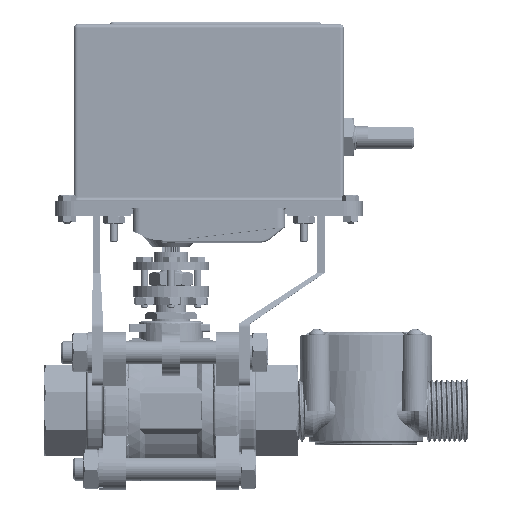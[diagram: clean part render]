
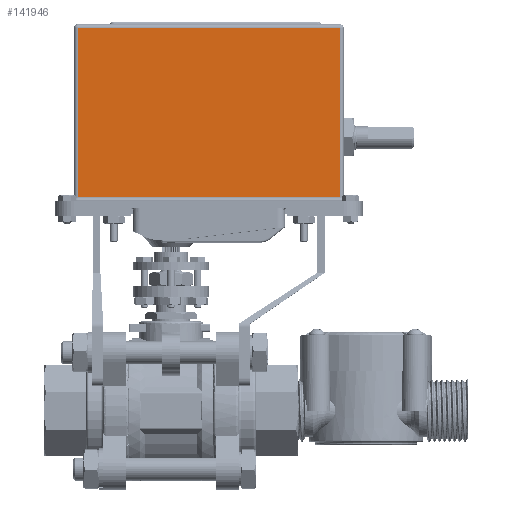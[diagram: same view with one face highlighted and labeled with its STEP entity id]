
A CAD part, top view. The second image highlights one B-rep face of the part: STEP entity #141946.
In plain terms, the highlighted planar face has unit normal (0, 0, 1) as drawn and (0, 1, 0) by its records, which use the part's own axes.
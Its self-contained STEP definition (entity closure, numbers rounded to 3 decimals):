
#10379=PLANE('',#151818);
#18816=LINE('',#209523,#34050);
#18824=LINE('',#209560,#34058);
#18826=LINE('',#209565,#34060);
#18827=LINE('',#209566,#34061);
#34050=VECTOR('',#169490,10.);
#34058=VECTOR('',#169536,10.);
#34060=VECTOR('',#169542,10.);
#34061=VECTOR('',#169543,10.);
#47712=FACE_OUTER_BOUND('',#55580,.T.);
#55580=EDGE_LOOP('',(#111181,#111182,#111183,#111184));
#67978=VERTEX_POINT('',#209429);
#68008=VERTEX_POINT('',#209520);
#68009=VERTEX_POINT('',#209522);
#68019=VERTEX_POINT('',#209559);
#84020=EDGE_CURVE('',#68008,#68009,#18816,.T.);
#84039=EDGE_CURVE('',#68009,#68019,#18824,.T.);
#84042=EDGE_CURVE('',#67978,#68008,#18826,.T.);
#84043=EDGE_CURVE('',#68019,#67978,#18827,.T.);
#111181=ORIENTED_EDGE('',*,*,#84020,.F.);
#111182=ORIENTED_EDGE('',*,*,#84042,.F.);
#111183=ORIENTED_EDGE('',*,*,#84043,.F.);
#111184=ORIENTED_EDGE('',*,*,#84039,.F.);
#141946=ADVANCED_FACE('',(#47712),#10379,.T.);
#151818=AXIS2_PLACEMENT_3D('',#209564,#169540,#169541);
#169490=DIRECTION('',(-1.,0.,0.));
#169536=DIRECTION('',(0.,0.,-1.));
#169540=DIRECTION('center_axis',(0.,1.,0.));
#169541=DIRECTION('ref_axis',(-1.,0.,0.));
#169542=DIRECTION('',(0.,0.,1.));
#169543=DIRECTION('',(1.,0.,0.));
#209429=CARTESIAN_POINT('',(59.1,19.05,3.));
#209520=CARTESIAN_POINT('',(59.1,19.05,47.5));
#209522=CARTESIAN_POINT('',(-10.,19.05,47.5));
#209523=CARTESIAN_POINT('',(42.325,19.05,47.5));
#209559=CARTESIAN_POINT('',(-10.,19.05,3.));
#209560=CARTESIAN_POINT('',(-10.,19.05,2.));
#209564=CARTESIAN_POINT('Origin',(60.1,19.05,2.));
#209565=CARTESIAN_POINT('',(59.1,19.05,2.));
#209566=CARTESIAN_POINT('',(42.325,19.05,3.));
